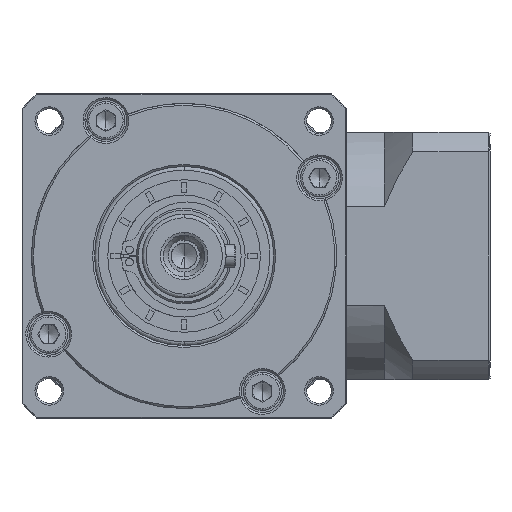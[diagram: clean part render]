
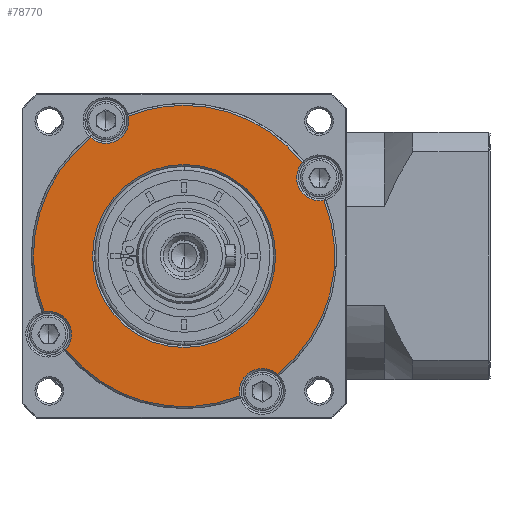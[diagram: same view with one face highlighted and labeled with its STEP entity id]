
A CAD part, left-side view. The second image highlights one B-rep face of the part: STEP entity #78770.
In plain terms, the highlighted planar face has unit normal (-1, 0, 0).
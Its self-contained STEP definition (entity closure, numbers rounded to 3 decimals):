
#958 = ORIENTED_EDGE ( 'NONE', *, *, #96953, .F. ) ;
#1502 = ORIENTED_EDGE ( 'NONE', *, *, #132600, .F. ) ;
#1959 = VERTEX_POINT ( 'NONE', #169094 ) ;
#2891 = VERTEX_POINT ( 'NONE', #71439 ) ;
#3248 = CARTESIAN_POINT ( 'NONE',  ( -81.328, -30.446, -125.264 ) ) ;
#4828 = CIRCLE ( 'NONE', #147366, 39.5 ) ;
#5096 = VERTEX_POINT ( 'NONE', #40617 ) ;
#5433 = VERTEX_POINT ( 'NONE', #72884 ) ;
#6169 = DIRECTION ( 'NONE',  ( 1., 0., 0. ) ) ;
#6210 = DIRECTION ( 'NONE',  ( 1., 0., 0. ) ) ;
#8753 = CIRCLE ( 'NONE', #115795, 39.5 ) ;
#9708 = ORIENTED_EDGE ( 'NONE', *, *, #141504, .T. ) ;
#11818 = DIRECTION ( 'NONE',  ( 1., 0., 0. ) ) ;
#15683 = CARTESIAN_POINT ( 'NONE',  ( -81.328, -6.446, -125.264 ) ) ;
#15825 = AXIS2_PLACEMENT_3D ( 'NONE', #99837, #18520, #113509 ) ;
#16788 = EDGE_CURVE ( 'NONE', #24604, #5096, #57824, .T. ) ;
#18520 = DIRECTION ( 'NONE',  ( 1., 0., 0. ) ) ;
#21433 = CIRCLE ( 'NONE', #106191, 24. ) ;
#21588 = CIRCLE ( 'NONE', #117176, 6. ) ;
#23045 = CIRCLE ( 'NONE', #57294, 6. ) ;
#23449 = ORIENTED_EDGE ( 'NONE', *, *, #132308, .T. ) ;
#24604 = VERTEX_POINT ( 'NONE', #124149 ) ;
#26927 = CARTESIAN_POINT ( 'NONE',  ( -81.328, 8.173, -88.569 ) ) ;
#29380 = DIRECTION ( 'NONE',  ( 0., 0., 1. ) ) ;
#30205 = EDGE_CURVE ( 'NONE', #24604, #90557, #4828, .T. ) ;
#30213 = DIRECTION ( 'NONE',  ( 1., 0., 0. ) ) ;
#32151 = EDGE_CURVE ( 'NONE', #5096, #66207, #99157, .T. ) ;
#33402 = CARTESIAN_POINT ( 'NONE',  ( -81.328, -21.065, -161.96 ) ) ;
#33684 = FACE_BOUND ( 'NONE', #130394, .T. ) ;
#33770 = EDGE_CURVE ( 'NONE', #118363, #36115, #88984, .T. ) ;
#34489 = DIRECTION ( 'NONE',  ( 1., 0., 0. ) ) ;
#36115 = VERTEX_POINT ( 'NONE', #159044 ) ;
#36308 = CIRCLE ( 'NONE', #124902, 24. ) ;
#37581 = ORIENTED_EDGE ( 'NONE', *, *, #16788, .T. ) ;
#40617 = CARTESIAN_POINT ( 'NONE',  ( -81.328, -41.953, -110.764 ) ) ;
#42171 = ORIENTED_EDGE ( 'NONE', *, *, #30205, .F. ) ;
#42318 = CIRCLE ( 'NONE', #118797, 39.5 ) ;
#42414 = AXIS2_PLACEMENT_3D ( 'NONE', #71973, #166870, #85583 ) ;
#42711 = EDGE_CURVE ( 'NONE', #140772, #118363, #23045, .T. ) ;
#46424 = ORIENTED_EDGE ( 'NONE', *, *, #90964, .T. ) ;
#53039 = CARTESIAN_POINT ( 'NONE',  ( -81.328, 24.562, -149.734 ) ) ;
#54385 = VERTEX_POINT ( 'NONE', #53039 ) ;
#54592 = DIRECTION ( 'NONE',  ( -1., 0., 0. ) ) ;
#54656 = ORIENTED_EDGE ( 'NONE', *, *, #171479, .T. ) ;
#54828 = ORIENTED_EDGE ( 'NONE', *, *, #107680, .F. ) ;
#57294 = AXIS2_PLACEMENT_3D ( 'NONE', #68189, #163098, #81825 ) ;
#57824 = CIRCLE ( 'NONE', #151722, 6. ) ;
#60602 = DIRECTION ( 'NONE',  ( 1., 0., 0. ) ) ;
#63151 = DIRECTION ( 'NONE',  ( 1., 0., 0. ) ) ;
#65122 = CARTESIAN_POINT ( 'NONE',  ( -81.328, -6.446, -125.264 ) ) ;
#66207 = VERTEX_POINT ( 'NONE', #84029 ) ;
#68091 = EDGE_CURVE ( 'NONE', #138439, #54385, #8753, .T. ) ;
#68189 = CARTESIAN_POINT ( 'NONE',  ( -81.328, 14.054, -89.757 ) ) ;
#68963 = CARTESIAN_POINT ( 'NONE',  ( -81.328, -6.446, -125.264 ) ) ;
#69320 = EDGE_LOOP ( 'NONE', ( #54828, #78695, #133210, #958, #1502, #54656, #98140, #46424, #42171, #37581, #111029, #123884 ) ) ;
#71439 = CARTESIAN_POINT ( 'NONE',  ( -81.328, 33.054, -125.264 ) ) ;
#71973 = CARTESIAN_POINT ( 'NONE',  ( -81.328, 29.061, -145.764 ) ) ;
#72884 = CARTESIAN_POINT ( 'NONE',  ( -81.328, 17.554, -125.264 ) ) ;
#75180 = CARTESIAN_POINT ( 'NONE',  ( -81.328, -6.446, -125.264 ) ) ;
#76275 = VERTEX_POINT ( 'NONE', #3248 ) ;
#78695 = ORIENTED_EDGE ( 'NONE', *, *, #42711, .T. ) ;
#78766 = DIRECTION ( 'NONE',  ( 0., 0., 1. ) ) ;
#78770 = ADVANCED_FACE ( 'NONE', ( #137707, #33684 ), #81263, .T. ) ;
#81263 = PLANE ( 'NONE',  #168395 ) ;
#81825 = DIRECTION ( 'NONE',  ( 0., 0., -1. ) ) ;
#82560 = DIRECTION ( 'NONE',  ( 0., 1., 0. ) ) ;
#84029 = CARTESIAN_POINT ( 'NONE',  ( -81.328, -37.454, -100.795 ) ) ;
#85583 = DIRECTION ( 'NONE',  ( 0., 0., -1. ) ) ;
#87411 = CARTESIAN_POINT ( 'NONE',  ( -81.328, -6.446, -125.264 ) ) ;
#87445 = CARTESIAN_POINT ( 'NONE',  ( -81.328, -41.953, -104.764 ) ) ;
#88779 = DIRECTION ( 'NONE',  ( 0., -1., 0. ) ) ;
#88984 = CIRCLE ( 'NONE', #152521, 6. ) ;
#90557 = VERTEX_POINT ( 'NONE', #106896 ) ;
#90964 = EDGE_CURVE ( 'NONE', #138439, #90557, #21588, .T. ) ;
#93195 = CARTESIAN_POINT ( 'NONE',  ( -81.328, 14.054, -89.757 ) ) ;
#96953 = EDGE_CURVE ( 'NONE', #2891, #36115, #142094, .T. ) ;
#98140 = ORIENTED_EDGE ( 'NONE', *, *, #68091, .F. ) ;
#99157 = CIRCLE ( 'NONE', #15825, 6. ) ;
#99837 = CARTESIAN_POINT ( 'NONE',  ( -81.328, -41.953, -104.764 ) ) ;
#100744 = AXIS2_PLACEMENT_3D ( 'NONE', #87411, #6169, #101069 ) ;
#101069 = DIRECTION ( 'NONE',  ( 0., 0., 1. ) ) ;
#101116 = DIRECTION ( 'NONE',  ( 0., 0., -1. ) ) ;
#106056 = CIRCLE ( 'NONE', #163620, 39.5 ) ;
#106191 = AXIS2_PLACEMENT_3D ( 'NONE', #111519, #30213, #125131 ) ;
#106790 = DIRECTION ( 'NONE',  ( 0., 0., -1. ) ) ;
#106896 = CARTESIAN_POINT ( 'NONE',  ( -81.328, -30.915, -156.272 ) ) ;
#107680 = EDGE_CURVE ( 'NONE', #140772, #1959, #42318, .T. ) ;
#110660 = DIRECTION ( 'NONE',  ( 1., 0., 0. ) ) ;
#111029 = ORIENTED_EDGE ( 'NONE', *, *, #32151, .T. ) ;
#111519 = CARTESIAN_POINT ( 'NONE',  ( -81.328, -6.446, -125.264 ) ) ;
#113509 = DIRECTION ( 'NONE',  ( 0., 0., -1. ) ) ;
#113896 = EDGE_CURVE ( 'NONE', #1959, #66207, #172295, .T. ) ;
#115764 = CARTESIAN_POINT ( 'NONE',  ( -81.328, -6.446, -125.264 ) ) ;
#115795 = AXIS2_PLACEMENT_3D ( 'NONE', #15683, #110660, #29380 ) ;
#117176 = AXIS2_PLACEMENT_3D ( 'NONE', #141836, #60602, #155347 ) ;
#118036 = AXIS2_PLACEMENT_3D ( 'NONE', #68963, #163850, #82560 ) ;
#118363 = VERTEX_POINT ( 'NONE', #154116 ) ;
#118797 = AXIS2_PLACEMENT_3D ( 'NONE', #115764, #34489, #129409 ) ;
#123884 = ORIENTED_EDGE ( 'NONE', *, *, #113896, .F. ) ;
#124149 = CARTESIAN_POINT ( 'NONE',  ( -81.328, -43.141, -110.645 ) ) ;
#124902 = AXIS2_PLACEMENT_3D ( 'NONE', #75180, #170055, #88779 ) ;
#125131 = DIRECTION ( 'NONE',  ( 0., -1., 0. ) ) ;
#129409 = DIRECTION ( 'NONE',  ( 0., 0., 1. ) ) ;
#130394 = EDGE_LOOP ( 'NONE', ( #9708, #23449 ) ) ;
#132308 = EDGE_CURVE ( 'NONE', #5433, #76275, #36308, .T. ) ;
#132600 = EDGE_CURVE ( 'NONE', #142834, #2891, #106056, .T. ) ;
#133210 = ORIENTED_EDGE ( 'NONE', *, *, #33770, .T. ) ;
#135841 = CARTESIAN_POINT ( 'NONE',  ( -81.328, -6.446, -125.264 ) ) ;
#137707 = FACE_OUTER_BOUND ( 'NONE', #69320, .T. ) ;
#138439 = VERTEX_POINT ( 'NONE', #33402 ) ;
#140772 = VERTEX_POINT ( 'NONE', #26927 ) ;
#141504 = EDGE_CURVE ( 'NONE', #76275, #5433, #21433, .T. ) ;
#141836 = CARTESIAN_POINT ( 'NONE',  ( -81.328, -26.946, -160.771 ) ) ;
#142094 = CIRCLE ( 'NONE', #118036, 39.5 ) ;
#142834 = VERTEX_POINT ( 'NONE', #168481 ) ;
#144431 = CARTESIAN_POINT ( 'NONE',  ( -81.328, -6.446, -125.264 ) ) ;
#147366 = AXIS2_PLACEMENT_3D ( 'NONE', #65122, #159991, #78766 ) ;
#149481 = DIRECTION ( 'NONE',  ( 0., 0., -1. ) ) ;
#151722 = AXIS2_PLACEMENT_3D ( 'NONE', #87445, #6210, #101116 ) ;
#152521 = AXIS2_PLACEMENT_3D ( 'NONE', #93195, #11818, #106790 ) ;
#154116 = CARTESIAN_POINT ( 'NONE',  ( -81.328, 14.054, -95.757 ) ) ;
#155347 = DIRECTION ( 'NONE',  ( 0., 0., -1. ) ) ;
#157955 = DIRECTION ( 'NONE',  ( 0., 1., 0. ) ) ;
#159044 = CARTESIAN_POINT ( 'NONE',  ( -81.328, 18.024, -94.256 ) ) ;
#159991 = DIRECTION ( 'NONE',  ( 1., 0., 0. ) ) ;
#163098 = DIRECTION ( 'NONE',  ( 1., 0., 0. ) ) ;
#163620 = AXIS2_PLACEMENT_3D ( 'NONE', #144431, #63151, #157955 ) ;
#163850 = DIRECTION ( 'NONE',  ( 1., 0., 0. ) ) ;
#166870 = DIRECTION ( 'NONE',  ( 1., 0., 0. ) ) ;
#168395 = AXIS2_PLACEMENT_3D ( 'NONE', #135841, #54592, #149481 ) ;
#168481 = CARTESIAN_POINT ( 'NONE',  ( -81.328, 30.249, -139.883 ) ) ;
#169094 = CARTESIAN_POINT ( 'NONE',  ( -81.328, -6.446, -85.764 ) ) ;
#170055 = DIRECTION ( 'NONE',  ( 1., 0., 0. ) ) ;
#171479 = EDGE_CURVE ( 'NONE', #142834, #54385, #174159, .T. ) ;
#172295 = CIRCLE ( 'NONE', #100744, 39.5 ) ;
#174159 = CIRCLE ( 'NONE', #42414, 6. ) ;
